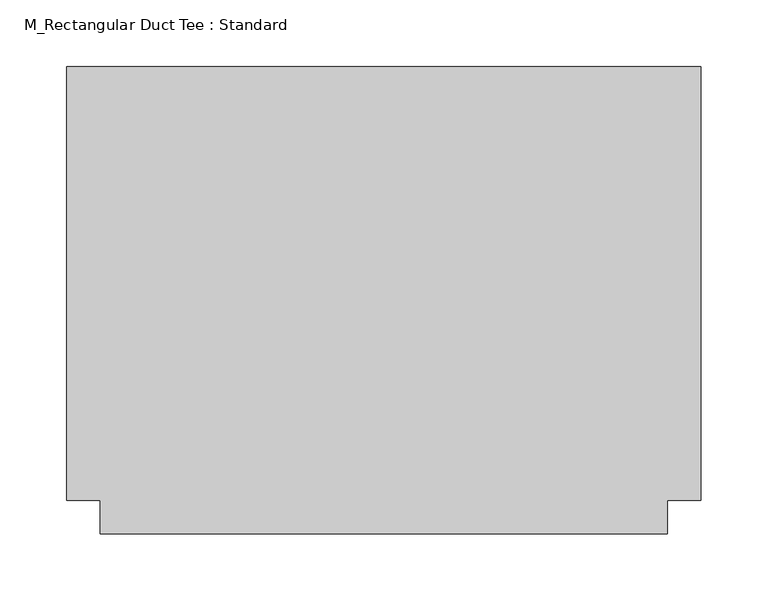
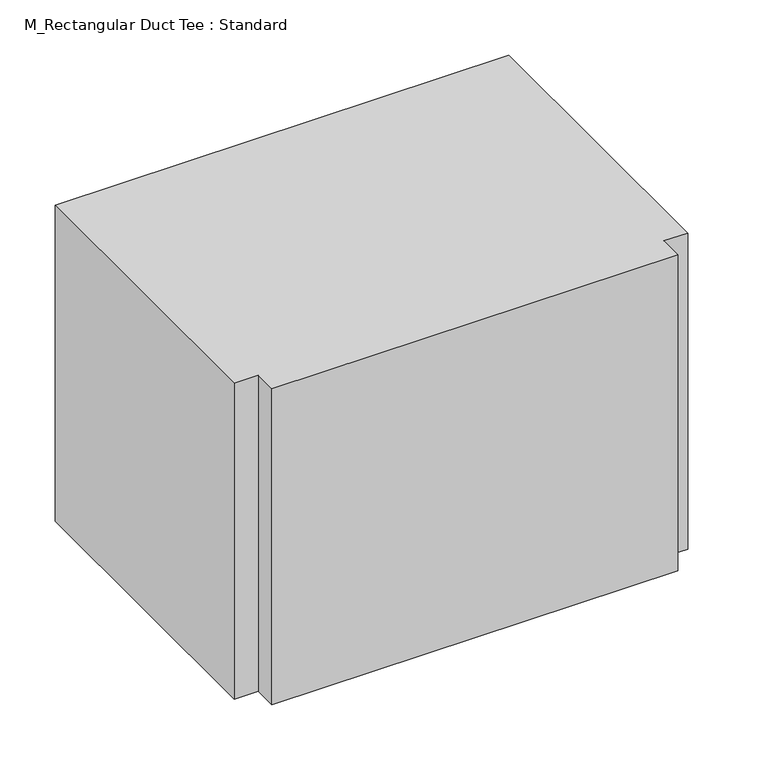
"""IFC4 building model written with IfcOpenShell, lengths in millimetres: duct fitting geometry, M_Rectangular Duct Tee : Standard."""

from ifc_helpers import new_model, si_unit, frame, origin, place, context, project, spatial, polyline, outline, extrude, source, transform, mapped, element, save


def m_rectangular_duct_tee_standard_3909d353(model_context):
    return source(origin(), model_context, "Body", "SweptSolid", [
        extrude(outline(polyline([(-237.5, -162.5), (-237.5, 162.5), (237.5, 162.5), (237.5, -162.5), (212.5, -162.5), (212.5, -187.5), (-212.5, -187.5), (-212.5, -162.5), (-237.5, -162.5)])), frame((0.0, 0.0, -175.0), z_axis=(0.0, 0.0, 1.0), x_axis=(1.0, 0.0, 0.0)), (0.0, 0.0, 1.0), 350.0),
        extrude(outline(polyline([(-237.5, 162.5), (237.5, 162.5), (237.5, -162.5), (212.5, -162.5), (212.5, -187.5), (-212.5, -187.5), (-212.5, -162.5), (-237.5, -162.5), (-237.5, 162.5)])), frame((0.0, 0.0, -175.0), z_axis=(0.0, 0.0, 1.0), x_axis=(1.0, 0.0, 0.0)), (0.0, 0.0, 1.0), 350.0),
        extrude(outline(polyline([(-237.5, -162.5), (-237.5, 162.5), (237.5, 162.5), (237.5, -162.5), (212.5, -162.5), (212.5, -187.5), (-212.5, -187.5), (-212.5, -162.5), (-237.5, -162.5)])), frame((0.0, 0.0, -175.0), z_axis=(0.0, 0.0, 1.0), x_axis=(1.0, 0.0, 0.0)), (0.0, 0.0, 1.0), 350.0),
    ])


if __name__ == "__main__":
    model = new_model("IFC4")
    model_context = context("Model", 3, world=origin())
    ifc_project = project(units=[si_unit("LENGTHUNIT", "METRE", prefix="MILLI")], contexts=[model_context])
    site = spatial("IfcSite", under=ifc_project)
    building = spatial("IfcBuilding", under=site)
    placement = place(None, origin())
    m_rectangular_duct_tee_standard_shape = m_rectangular_duct_tee_standard_3909d353(model_context)
    element("IfcDuctFitting", 1, ObjectType="M_Rectangular Duct Tee : Standard", at=placement, inside=building, context=model_context, shape_type="MappedRepresentation", body=[
        mapped(m_rectangular_duct_tee_standard_shape, transform((0.0, 0.0, 0.0), x_axis=(1.0, 0.0, 0.0), y_axis=(0.0, 1.0, 0.0), z_axis=(0.0, 0.0, 1.0))),
    ])
    save(model, "model.ifc")
